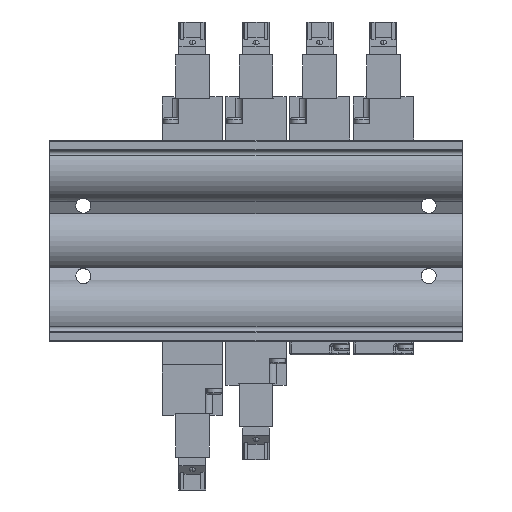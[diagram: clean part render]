
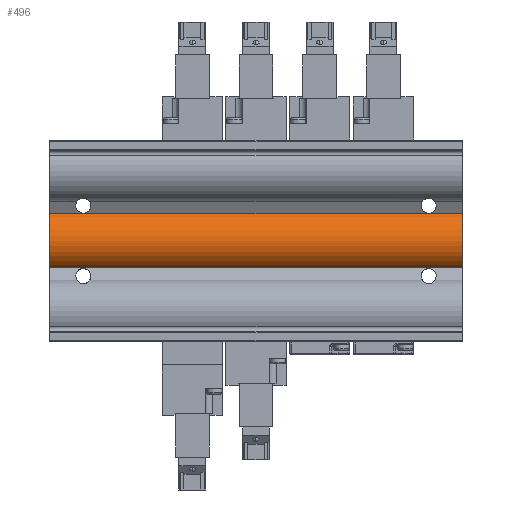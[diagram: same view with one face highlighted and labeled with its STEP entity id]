
A CAD part, front view. The second image highlights one B-rep face of the part: STEP entity #496.
In plain terms, the highlighted cylindrical face has radius 9.5 mm (diameter 19 mm), a partial arc.
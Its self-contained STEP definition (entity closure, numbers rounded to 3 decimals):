
#496 = ADVANCED_FACE ( 'NONE', ( #10467 ), #21257, .T. ) ;
#3821 = ORIENTED_EDGE ( 'NONE', *, *, #10955, .F. ) ;
#4073 = CARTESIAN_POINT ( 'NONE',  ( 61.5, -10., 0. ) ) ;
#4206 = DIRECTION ( 'NONE',  ( 0., 0., 1. ) ) ;
#5724 = AXIS2_PLACEMENT_3D ( 'NONE', #4073, #10377, #4206 ) ;
#6022 = CARTESIAN_POINT ( 'NONE',  ( 61.5, -15., -8.078 ) ) ;
#6918 = VECTOR ( 'NONE', #29843, 1000. ) ;
#9714 = CARTESIAN_POINT ( 'NONE',  ( 61.5, -15., -8.078 ) ) ;
#10377 = DIRECTION ( 'NONE',  ( -1., 0., 0. ) ) ;
#10467 = FACE_OUTER_BOUND ( 'NONE', #13249, .T. ) ;
#10955 = EDGE_CURVE ( 'NONE', #16416, #32165, #16816, .T. ) ;
#11143 = DIRECTION ( 'NONE',  ( 1., 0., 0. ) ) ;
#11305 = AXIS2_PLACEMENT_3D ( 'NONE', #11340, #26475, #38727 ) ;
#11340 = CARTESIAN_POINT ( 'NONE',  ( 61.5, -10., 0. ) ) ;
#11687 = AXIS2_PLACEMENT_3D ( 'NONE', #14705, #11143, #17425 ) ;
#13249 = EDGE_LOOP ( 'NONE', ( #32344, #3821, #27238, #33517 ) ) ;
#14705 = CARTESIAN_POINT ( 'NONE',  ( -61.5, -10., 0. ) ) ;
#15379 = CIRCLE ( 'NONE', #11305, 9.5 ) ;
#15454 = DIRECTION ( 'NONE',  ( -1., 0., 0. ) ) ;
#16416 = VERTEX_POINT ( 'NONE', #9714 ) ;
#16816 = LINE ( 'NONE', #6022, #6918 ) ;
#17221 = EDGE_CURVE ( 'NONE', #37562, #20326, #36023, .T. ) ;
#17425 = DIRECTION ( 'NONE',  ( 0., 0., -1. ) ) ;
#20326 = VERTEX_POINT ( 'NONE', #36739 ) ;
#21257 = CYLINDRICAL_SURFACE ( 'NONE', #5724, 9.5 ) ;
#26263 = CARTESIAN_POINT ( 'NONE',  ( 61.5, -15., 8.078 ) ) ;
#26475 = DIRECTION ( 'NONE',  ( 1., 0., 0. ) ) ;
#26619 = VECTOR ( 'NONE', #15454, 1000. ) ;
#27238 = ORIENTED_EDGE ( 'NONE', *, *, #35170, .F. ) ;
#29843 = DIRECTION ( 'NONE',  ( -1., 0., 0. ) ) ;
#32165 = VERTEX_POINT ( 'NONE', #33505 ) ;
#32344 = ORIENTED_EDGE ( 'NONE', *, *, #38431, .T. ) ;
#33505 = CARTESIAN_POINT ( 'NONE',  ( -61.5, -15., -8.078 ) ) ;
#33517 = ORIENTED_EDGE ( 'NONE', *, *, #17221, .T. ) ;
#35170 = EDGE_CURVE ( 'NONE', #37562, #16416, #15379, .T. ) ;
#36023 = LINE ( 'NONE', #26263, #26619 ) ;
#36739 = CARTESIAN_POINT ( 'NONE',  ( -61.5, -15., 8.078 ) ) ;
#37310 = CIRCLE ( 'NONE', #11687, 9.5 ) ;
#37562 = VERTEX_POINT ( 'NONE', #38607 ) ;
#38431 = EDGE_CURVE ( 'NONE', #20326, #32165, #37310, .T. ) ;
#38607 = CARTESIAN_POINT ( 'NONE',  ( 61.5, -15., 8.078 ) ) ;
#38727 = DIRECTION ( 'NONE',  ( 0., 0., -1. ) ) ;
